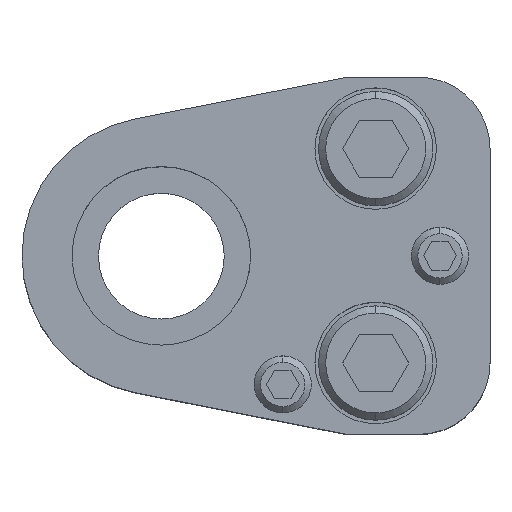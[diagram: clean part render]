
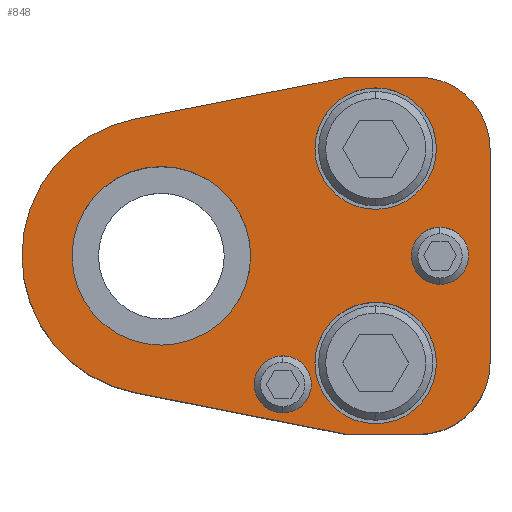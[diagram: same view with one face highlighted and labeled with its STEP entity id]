
A CAD part, top view. The second image highlights one B-rep face of the part: STEP entity #848.
In plain terms, the highlighted planar face has unit normal (0, 0, 1).
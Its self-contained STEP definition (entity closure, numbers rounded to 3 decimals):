
#461=LINE('',#4203,#660);
#466=LINE('',#4218,#665);
#470=LINE('',#4230,#669);
#475=LINE('',#4239,#674);
#480=LINE('',#4253,#679);
#660=VECTOR('',#3377,1.);
#665=VECTOR('',#3390,1.);
#669=VECTOR('',#3402,1.);
#674=VECTOR('',#3409,1.);
#679=VECTOR('',#3422,1.);
#848=ADVANCED_FACE('',(#981,#982,#983,#984,#985,#986),#945,.T.);
#945=PLANE('',#2843);
#981=FACE_BOUND('',#1133,.T.);
#982=FACE_BOUND('',#1134,.T.);
#983=FACE_BOUND('',#1135,.T.);
#984=FACE_BOUND('',#1136,.T.);
#985=FACE_BOUND('',#1137,.T.);
#986=FACE_BOUND('',#1138,.T.);
#1133=EDGE_LOOP('',(#1679,#1680,#1681,#1682,#1683,#1684,#1685,#1686));
#1134=EDGE_LOOP('',(#1687,#1688));
#1135=EDGE_LOOP('',(#1689,#1690));
#1136=EDGE_LOOP('',(#1691,#1692));
#1137=EDGE_LOOP('',(#1693,#1694));
#1138=EDGE_LOOP('',(#1695,#1696));
#1679=ORIENTED_EDGE('',*,*,#2345,.T.);
#1680=ORIENTED_EDGE('',*,*,#2327,.T.);
#1681=ORIENTED_EDGE('',*,*,#2331,.T.);
#1682=ORIENTED_EDGE('',*,*,#2334,.T.);
#1683=ORIENTED_EDGE('',*,*,#2337,.T.);
#1684=ORIENTED_EDGE('',*,*,#2340,.T.);
#1685=ORIENTED_EDGE('',*,*,#2352,.T.);
#1686=ORIENTED_EDGE('',*,*,#2348,.T.);
#1687=ORIENTED_EDGE('',*,*,#2388,.F.);
#1688=ORIENTED_EDGE('',*,*,#2389,.F.);
#1689=ORIENTED_EDGE('',*,*,#2390,.F.);
#1690=ORIENTED_EDGE('',*,*,#2391,.F.);
#1691=ORIENTED_EDGE('',*,*,#2378,.F.);
#1692=ORIENTED_EDGE('',*,*,#2374,.F.);
#1693=ORIENTED_EDGE('',*,*,#2372,.F.);
#1694=ORIENTED_EDGE('',*,*,#2368,.F.);
#1695=ORIENTED_EDGE('',*,*,#2392,.T.);
#1696=ORIENTED_EDGE('',*,*,#2393,.T.);
#2027=VERTEX_POINT('',#4202);
#2028=VERTEX_POINT('',#4204);
#2031=VERTEX_POINT('',#4211);
#2033=VERTEX_POINT('',#4217);
#2035=VERTEX_POINT('',#4223);
#2037=VERTEX_POINT('',#4229);
#2041=VERTEX_POINT('',#4240);
#2043=VERTEX_POINT('',#4246);
#2058=VERTEX_POINT('',#4288);
#2059=VERTEX_POINT('',#4289);
#2062=VERTEX_POINT('',#4300);
#2063=VERTEX_POINT('',#4301);
#2070=VERTEX_POINT('',#4328);
#2071=VERTEX_POINT('',#4329);
#2072=VERTEX_POINT('',#4332);
#2073=VERTEX_POINT('',#4333);
#2074=VERTEX_POINT('',#4336);
#2075=VERTEX_POINT('',#4337);
#2327=EDGE_CURVE('',#2028,#2027,#461,.T.);
#2331=EDGE_CURVE('',#2027,#2031,#2553,.T.);
#2334=EDGE_CURVE('',#2031,#2033,#466,.T.);
#2337=EDGE_CURVE('',#2033,#2035,#2555,.T.);
#2340=EDGE_CURVE('',#2035,#2037,#470,.T.);
#2345=EDGE_CURVE('',#2041,#2028,#475,.T.);
#2348=EDGE_CURVE('',#2043,#2041,#2558,.T.);
#2352=EDGE_CURVE('',#2037,#2043,#480,.T.);
#2368=EDGE_CURVE('',#2058,#2059,#2567,.T.);
#2372=EDGE_CURVE('',#2059,#2058,#2569,.T.);
#2374=EDGE_CURVE('',#2062,#2063,#2571,.T.);
#2378=EDGE_CURVE('',#2063,#2062,#2573,.T.);
#2388=EDGE_CURVE('',#2070,#2071,#2579,.T.);
#2389=EDGE_CURVE('',#2071,#2070,#2580,.T.);
#2390=EDGE_CURVE('',#2072,#2073,#2581,.T.);
#2391=EDGE_CURVE('',#2073,#2072,#2582,.T.);
#2392=EDGE_CURVE('',#2074,#2075,#2583,.T.);
#2393=EDGE_CURVE('',#2075,#2074,#2584,.T.);
#2553=CIRCLE('',#2794,10.);
#2555=CIRCLE('',#2798,10.);
#2558=CIRCLE('',#2804,19.5);
#2567=CIRCLE('',#2817,4.);
#2569=CIRCLE('',#2820,4.);
#2571=CIRCLE('',#2823,4.);
#2573=CIRCLE('',#2826,4.);
#2579=CIRCLE('',#2837,8.5);
#2580=CIRCLE('',#2838,8.5);
#2581=CIRCLE('',#2839,8.5);
#2582=CIRCLE('',#2840,8.5);
#2583=CIRCLE('',#2841,12.5);
#2584=CIRCLE('',#2842,12.5);
#2794=AXIS2_PLACEMENT_3D('',#4212,#3383,#3384);
#2798=AXIS2_PLACEMENT_3D('',#4224,#3395,#3396);
#2804=AXIS2_PLACEMENT_3D('',#4245,#3415,#3416);
#2817=AXIS2_PLACEMENT_3D('',#4287,#3451,#3452);
#2820=AXIS2_PLACEMENT_3D('',#4296,#3459,#3460);
#2823=AXIS2_PLACEMENT_3D('',#4299,#3465,#3466);
#2826=AXIS2_PLACEMENT_3D('',#4308,#3473,#3474);
#2837=AXIS2_PLACEMENT_3D('',#4327,#3499,#3500);
#2838=AXIS2_PLACEMENT_3D('',#4330,#3501,#3502);
#2839=AXIS2_PLACEMENT_3D('',#4331,#3503,#3504);
#2840=AXIS2_PLACEMENT_3D('',#4334,#3505,#3506);
#2841=AXIS2_PLACEMENT_3D('',#4335,#3507,#3508);
#2842=AXIS2_PLACEMENT_3D('',#4338,#3509,#3510);
#2843=AXIS2_PLACEMENT_3D('',#4339,#3511,#3512);
#3377=DIRECTION('',(1.,0.,0.));
#3383=DIRECTION('',(0.,0.,1.));
#3384=DIRECTION('',(-0.707,0.707,0.));
#3390=DIRECTION('',(0.,1.,0.));
#3395=DIRECTION('',(0.,0.,1.));
#3396=DIRECTION('',(-0.707,-0.707,0.));
#3402=DIRECTION('',(-1.,0.,0.));
#3409=DIRECTION('',(0.981,-0.193,0.));
#3415=DIRECTION('',(0.,0.,1.));
#3416=DIRECTION('',(1.,0.,0.));
#3422=DIRECTION('',(-0.981,-0.193,0.));
#3451=DIRECTION('',(0.,0.,1.));
#3452=DIRECTION('',(-1.,0.,0.));
#3459=DIRECTION('',(0.,0.,1.));
#3460=DIRECTION('',(1.,0.,0.));
#3465=DIRECTION('',(0.,0.,1.));
#3466=DIRECTION('',(-1.,0.,0.));
#3473=DIRECTION('',(0.,0.,1.));
#3474=DIRECTION('',(1.,0.,0.));
#3499=DIRECTION('',(0.,0.,1.));
#3500=DIRECTION('',(1.,0.,0.));
#3501=DIRECTION('',(0.,0.,1.));
#3502=DIRECTION('',(-1.,0.,0.));
#3503=DIRECTION('',(0.,0.,1.));
#3504=DIRECTION('',(1.,0.,0.));
#3505=DIRECTION('',(0.,0.,1.));
#3506=DIRECTION('',(-1.,0.,0.));
#3507=DIRECTION('',(0.,0.,-1.));
#3508=DIRECTION('',(-1.,0.,0.));
#3509=DIRECTION('',(0.,0.,-1.));
#3510=DIRECTION('',(1.,0.,0.));
#3511=DIRECTION('',(0.,0.,1.));
#3512=DIRECTION('',(0.981,-0.193,0.));
#4202=CARTESIAN_POINT('',(36.,-25.,35.));
#4203=CARTESIAN_POINT('',(26.,-25.,35.));
#4204=CARTESIAN_POINT('',(26.,-25.,35.));
#4211=CARTESIAN_POINT('',(46.,-15.,35.));
#4212=CARTESIAN_POINT('',(36.,-15.,35.));
#4217=CARTESIAN_POINT('',(46.,15.,35.));
#4218=CARTESIAN_POINT('',(46.,15.,35.));
#4223=CARTESIAN_POINT('',(36.,25.,35.));
#4224=CARTESIAN_POINT('',(36.,15.,35.));
#4229=CARTESIAN_POINT('',(26.,25.,35.));
#4230=CARTESIAN_POINT('',(26.,25.,35.));
#4239=CARTESIAN_POINT('',(26.,-25.,35.));
#4240=CARTESIAN_POINT('',(-3.771,-19.132,35.));
#4245=CARTESIAN_POINT('',(0.,0.,35.));
#4246=CARTESIAN_POINT('',(-3.771,19.132,35.));
#4253=CARTESIAN_POINT('',(26.,25.,35.));
#4287=CARTESIAN_POINT('',(17.,-18.,35.));
#4288=CARTESIAN_POINT('',(17.,-22.,35.));
#4289=CARTESIAN_POINT('',(17.,-14.,35.));
#4296=CARTESIAN_POINT('',(17.,-18.,35.));
#4299=CARTESIAN_POINT('',(39.,0.,35.));
#4300=CARTESIAN_POINT('',(39.,-4.,35.));
#4301=CARTESIAN_POINT('',(39.,4.,35.));
#4308=CARTESIAN_POINT('',(39.,0.,35.));
#4327=CARTESIAN_POINT('',(30.,15.,35.));
#4328=CARTESIAN_POINT('',(30.,23.5,35.));
#4329=CARTESIAN_POINT('',(30.,6.5,35.));
#4330=CARTESIAN_POINT('',(30.,15.,35.));
#4331=CARTESIAN_POINT('',(30.,-15.,35.));
#4332=CARTESIAN_POINT('',(30.,-6.5,35.));
#4333=CARTESIAN_POINT('',(30.,-23.5,35.));
#4334=CARTESIAN_POINT('',(30.,-15.,35.));
#4335=CARTESIAN_POINT('',(0.,0.,35.));
#4336=CARTESIAN_POINT('',(0.,12.5,35.));
#4337=CARTESIAN_POINT('',(0.,-12.5,35.));
#4338=CARTESIAN_POINT('',(0.,0.,35.));
#4339=CARTESIAN_POINT('',(-3.771,-19.132,35.));
